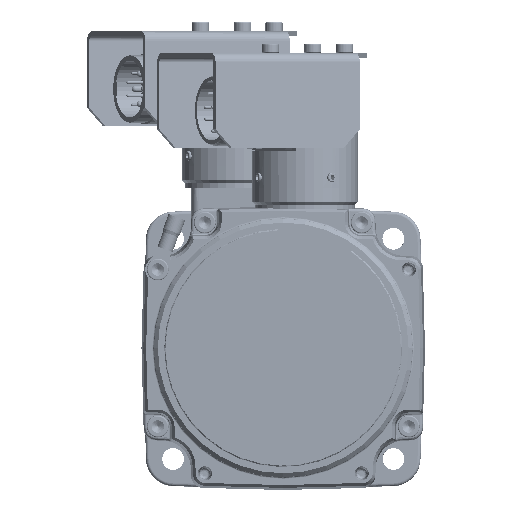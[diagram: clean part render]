
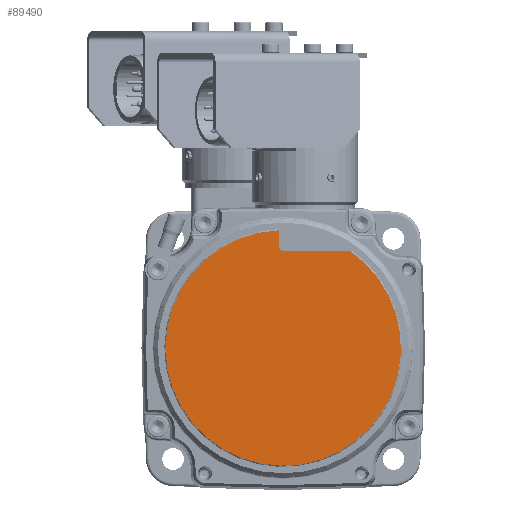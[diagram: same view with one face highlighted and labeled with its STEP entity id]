
A CAD part, top view. The second image highlights one B-rep face of the part: STEP entity #89490.
In plain terms, the highlighted planar face has unit normal (0, 0, 1).
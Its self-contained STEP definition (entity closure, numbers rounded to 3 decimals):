
#83291=CARTESIAN_POINT('',(-1.5,37.77,60.3));
#83293=CARTESIAN_POINT('',(0.,0.,60.3));
#83294=DIRECTION('',(0.,0.,-1.));
#83295=DIRECTION('',(0.572,0.82,0.));
#83296=AXIS2_PLACEMENT_3D('',#83293,#83294,#83295);
#83319=CARTESIAN_POINT('',(0.5,33.,60.3));
#83320=DIRECTION('',(0.,0.,-1.));
#83321=DIRECTION('',(0.,-1.,0.));
#83322=AXIS2_PLACEMENT_3D('',#83319,#83320,#83321);
#83341=DIRECTION('',(0.,-1.,0.));
#83342=VECTOR('',#83341,4.77);
#83343=CARTESIAN_POINT('',(-1.5,37.77,60.3));
#83344=LINE('',#83343,#83342);
#83345=DIRECTION('',(1.,0.,0.));
#83346=VECTOR('',#83345,21.13);
#83347=CARTESIAN_POINT('',(0.5,31.,60.3));
#83348=LINE('',#83347,#83346);
#84766=CARTESIAN_POINT('',(0.5,31.,60.3));
#84768=VERTEX_POINT('',#84766);
#84770=CARTESIAN_POINT('',(-1.5,33.,60.3));
#84772=VERTEX_POINT('',#84770);
#84786=VERTEX_POINT('',#83291);
#84787=CARTESIAN_POINT('',(21.63,31.,60.3));
#84788=VERTEX_POINT('',#84787);
#89479=CARTESIAN_POINT('',(0.,0.,60.3));
#89480=DIRECTION('',(0.,0.,1.));
#89481=DIRECTION('',(1.,0.,0.));
#89482=AXIS2_PLACEMENT_3D('',#89479,#89480,#89481);
#89483=PLANE('',#89482);
#89484=ORIENTED_EDGE('',*,*,#89427,.T.);
#89485=ORIENTED_EDGE('',*,*,#89445,.T.);
#89486=ORIENTED_EDGE('',*,*,#89457,.F.);
#89487=ORIENTED_EDGE('',*,*,#89470,.T.);
#89488=EDGE_LOOP('',(#89484,#89485,#89486,#89487));
#89489=FACE_OUTER_BOUND('',#89488,.F.);
#89490=ADVANCED_FACE('',(#89489),#89483,.T.);
#83297=CIRCLE('',#83296,37.8);
#83323=CIRCLE('',#83322,2.);
#89427=EDGE_CURVE('',#84788,#84786,#83297,.T.);
#89445=EDGE_CURVE('',#84786,#84772,#83344,.T.);
#89457=EDGE_CURVE('',#84768,#84772,#83323,.T.);
#89470=EDGE_CURVE('',#84768,#84788,#83348,.T.);
